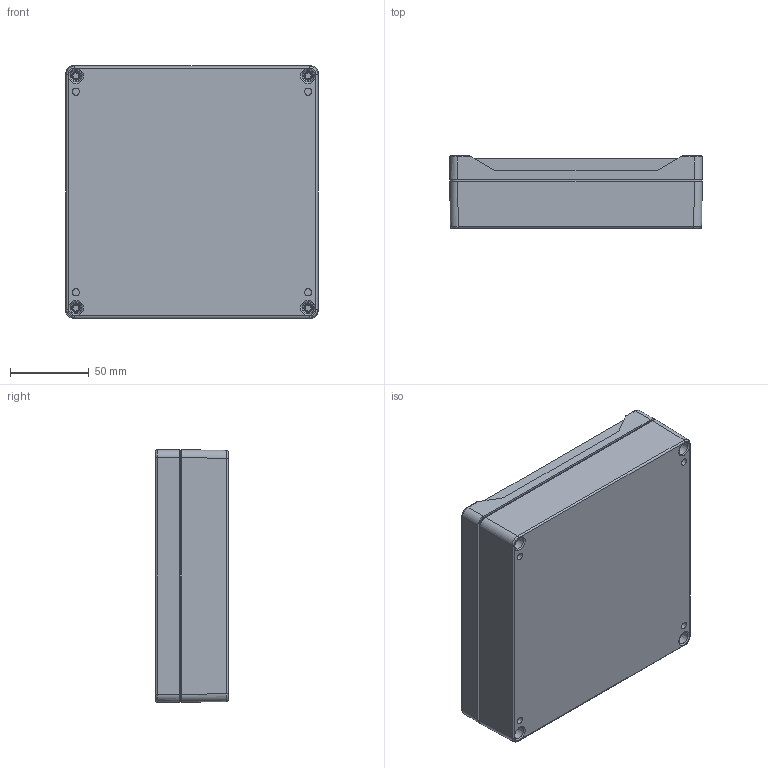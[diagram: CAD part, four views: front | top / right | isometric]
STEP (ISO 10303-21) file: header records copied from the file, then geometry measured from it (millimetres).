
FILE_DESCRIPTION(/* description */ (''),/* implementation_level */ '2;1');
FILE_NAME(/* name */ '1555RL.stp',/* time_stamp */ '2025-02-04T14:44:01-05:00',/* author */ ('mbeerman'),/* organization */ (''),/* preprocessor_version */ 'ST-DEVELOPER v20',/* originating_system */ 'Autodesk Inventor 2024',/* authorisation */ '');
FILE_SCHEMA (('AUTOMOTIVE_DESIGN { 1 0 10303 214 3 1 1 }'));
Products named in the file (7): 1554Q; 1554RL Box v1; lid R_S1; SC576 (screw M4-0.7X 20mm PN); 1554R-S GASKET; Insert; Insert_1
Assembly tree (15 placements, depth 2):
  1554Q
    1554RL Box v1
    lid R_S1
    SC576 (screw M4-0.7X 20mm PN)  x4
    1554R-S GASKET
    Insert_1  x4
    Insert  x4
Bounding box: 160 x 46.05 x 160 mm (x, y, z)
Volume: 262666.2 mm3; surface area: 177931.6 mm2
Topology: 15 solids, 15 shells, 1942 faces, 5008 edges, 3243 vertices
Faces by surface type: plane 710, bspline 578, cylinder 350, cone 224, torus 72, sphere 8
Full cylindrical faces by diameter (mm): 1.823 x1, 2 x4, 2.464 x4, 2.482 x1, 3.251 x4, 3.5 x8, 3.81 x12, 3.88 x4, 3.912 x4, 4.6 x4, 5.334 x4, 5.537 x8, 6 x4, 6.35 x8, 7 x4, 10 x1
Entity records: 53758 total; most frequent: CARTESIAN_POINT 21574, ORIENTED_EDGE 7086, DIRECTION 5808, EDGE_CURVE 3543, VERTEX_POINT 2274, AXIS2_PLACEMENT_3D 2045, LINE 1718, VECTOR 1718
